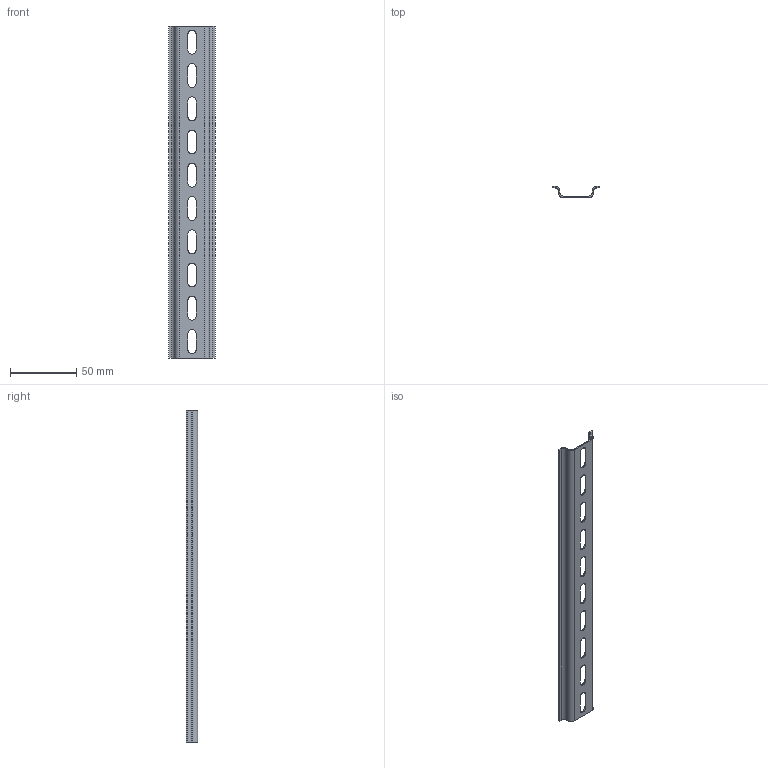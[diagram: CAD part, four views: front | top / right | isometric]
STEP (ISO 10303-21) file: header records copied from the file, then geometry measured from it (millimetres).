
FILE_DESCRIPTION (( 'STEP AP214' ), '1' );
FILE_NAME ('DIN-ðåéêà 250ìì õ 0,1 ìì.STEP', '2025-10-22T11:49:45', ( '' ), ( '' ), 'SwSTEP 2.0', 'SolidWorks 2018', '' );
FILE_SCHEMA (( 'AUTOMOTIVE_DESIGN' ));
Length unit declared in the file: millimetre
Products named in the file (1): DIN-ðåéêà 250ìì õ 0,1 ìì
Bounding box: 35.2 x 8.5 x 250 mm (x, y, z)
Volume: 10242.7 mm3; surface area: 21503.7 mm2
Topology: 1 solids, 1 shells, 88 faces, 226 edges, 140 vertices
Faces by surface type: plane 50, cylinder 38
Entity records: 2724 total; most frequent: DIRECTION 480, CARTESIAN_POINT 455, ORIENTED_EDGE 452, EDGE_CURVE 226, AXIS2_PLACEMENT_3D 165, VECTOR 150, LINE 150, VERTEX_POINT 140
